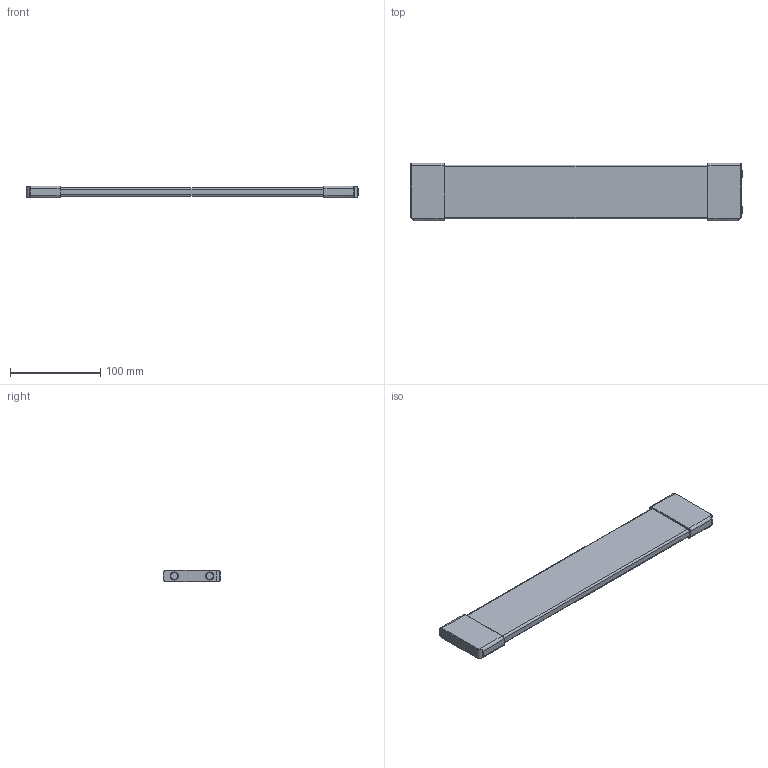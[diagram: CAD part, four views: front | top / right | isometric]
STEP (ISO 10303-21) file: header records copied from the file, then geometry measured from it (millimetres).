
FILE_DESCRIPTION (( 'STEP AP214' ), '1' );
FILE_NAME ('Schubkastenteiler_PROKAB_450.step', '2009-11-04T15:16:40', ( 'Waldinger Reinhard' ), ( 'Grass GmbH' ), 'SwSTEP 2.0', 'SolidWorks 2009', '' );
FILE_SCHEMA (( 'AUTOMOTIVE_DESIGN' ));
Length unit declared in the file: millimetre
Products named in the file (1): Schubkastenteiler_PROKAB_450
Bounding box: 367.9 x 63.7 x 13 mm (x, y, z)
Volume: 231325 mm3; surface area: 52687.1 mm2
Topology: 1 solids, 1 shells, 92 faces, 208 edges, 124 vertices
Faces by surface type: cylinder 38, torus 28, plane 22, bspline 4
Entity records: 3210 total; most frequent: CARTESIAN_POINT 1069, DIRECTION 486, ORIENTED_EDGE 416, EDGE_CURVE 208, AXIS2_PLACEMENT_3D 205, VERTEX_POINT 124, CIRCLE 116, EDGE_LOOP 98
